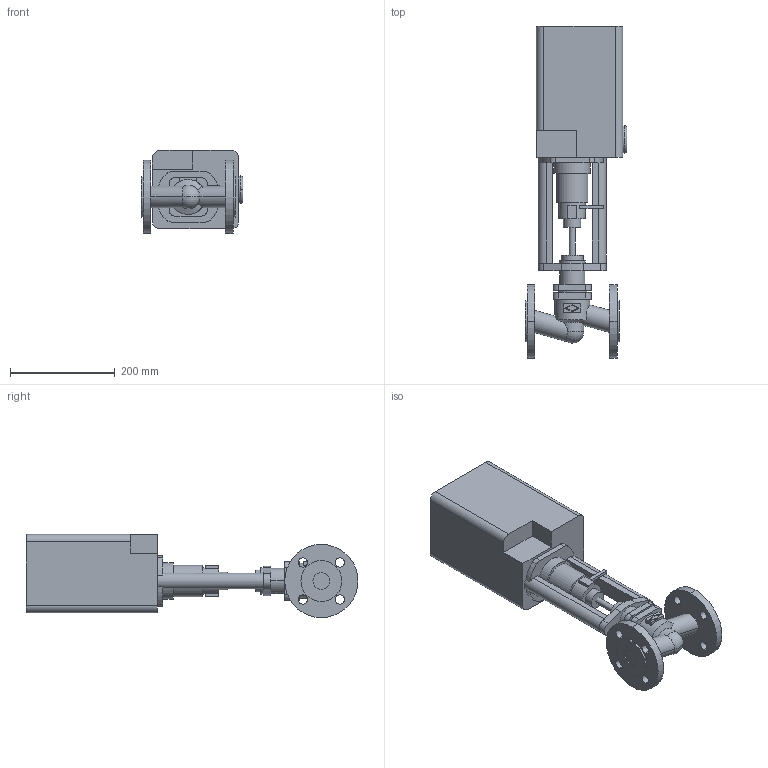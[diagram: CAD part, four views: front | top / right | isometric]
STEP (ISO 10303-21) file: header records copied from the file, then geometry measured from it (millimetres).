
FILE_DESCRIPTION(('OneSpaceDesigner STEP Export'),'2;1');
FILE_NAME('c000001168.stp','2005-02-16T12:03:14',(''),(''),'OneSpace Designer STEP processor (Jan. 2003) for AP203(Solid Model)','OneSpace Designer 12.01D 09-Jul-2004 (C) CoCreate Software GmbH','');
FILE_SCHEMA(('CONFIG_CONTROL_DESIGN'));
Length unit declared in the file: millimetre
Products named in the file (2): 1; 2
Bounding box: 194.6 x 634.5 x 159 mm (x, y, z)
Volume: 7834604.5 mm3; surface area: 412428.5 mm2
Topology: 2 solids, 2 shells, 174 faces, 441 edges, 292 vertices
Faces by surface type: plane 86, cylinder 82, sphere 2, cone 2, torus 2
Entity records: 5236 total; most frequent: CARTESIAN_POINT 1038, ORIENTED_EDGE 878, DIRECTION 778, EDGE_CURVE 439, VERTEX_POINT 292, AXIS2_PLACEMENT_3D 269, VECTOR 240, LINE 240
